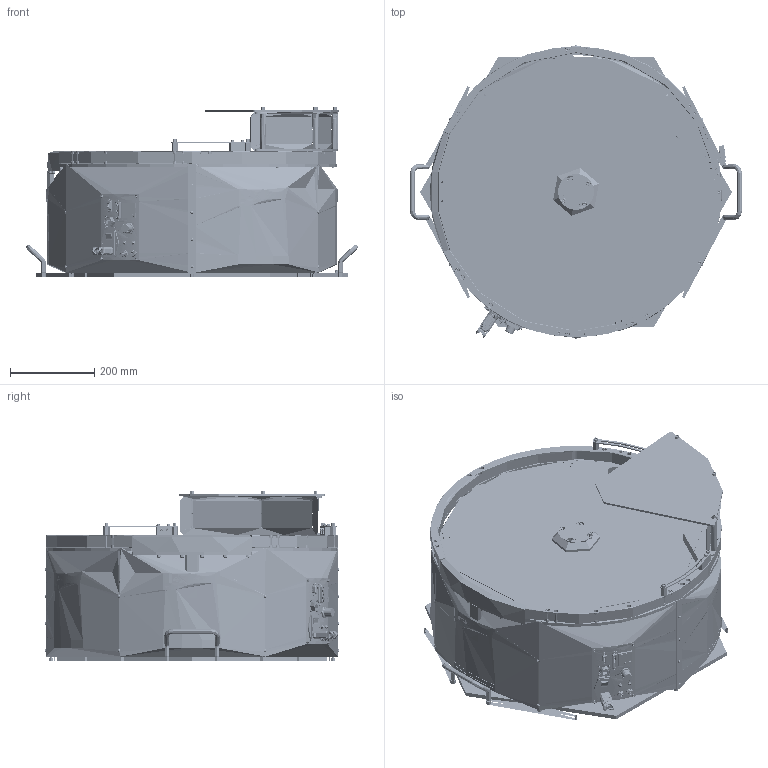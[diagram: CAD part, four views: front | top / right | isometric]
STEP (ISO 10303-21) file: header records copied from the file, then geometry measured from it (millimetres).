
FILE_DESCRIPTION (( 'STEP AP214' ), '1' );
FILE_NAME ('GM000216_FB650CC V2.2 Quick Emptying.STEP', '2023-09-19T07:21:08', ( '' ), ( '' ), 'SwSTEP 2.0', 'SolidWorks 2022', '' );
FILE_SCHEMA (( 'AUTOMOTIVE_DESIGN' ));
Length unit declared in the file: millimetre
Products named in the file (87): CE000418; CM000048; CE000316; PD001119; CM000024; CM000166; PD000709; CM000212; CM000015_002; CE000461; Copia di Led RDY_FLT^CE000326; PD001102; CM000027; PD005830; CM000026; CM000008_005; CM000031; CM000941; PD001360_FB650; CE000326; CE000013; CE000327; CM000170; PD001657; GM000216_FB650CC V2.2 Quick Emptying; PD006114; CE000078; PD001096; PD001356; PD001440; CM001243; PD001425; PD005831; PD006077; CM000039; CM000086; PD006076; CM000008_004; CE000005; PD006074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
Assembly tree (209 placements, depth 3):
  CM000941
  GM000216_FB650CC V2.2 Quick Emptying
    CM000032  x4
    CM000048  x16
    CM000031  x9
    CM000050  x3
    CM000170  x6
    CM000166  x8
    CM000642  x4
    CM000035  x4
    CM000027  x4
    CM000086  x5
    CM000051  x4
    CM000025  x4
    CM000043  x2
    CM000026  x10
    CM000024  x10
    CM000006  x4
    CM000091
    CM000037  x3
    CM000021  x3
    CM000039  x3
    CM001243  x2
    CM000047  x10
    CM000015  x2
      CM000015_001
      CM000015_002
    CE000327
      Copia di CE000327^CE000327
      Copia di 39-01-2025^CE000327
    CE000326
      Copia di Led RDY_FLT^CE000326
      Copia di 39-01-2045^CE000326
    CE000461
      Copia di CE000325^CE000461
    CE000463
      Copia di connector_a-ds_25_pp-f^CE000302mod
    PD001096
    CM000001  x2
    PD006078
    PD001440  x6
    PD006077
    PD006073  x2
    PD001657
    PD000709
    PD000032
    CE000078
    PD001102
    PD001103
    PD001061
    PD000043  x4
    PD001121  x2
    PD001119  x2
    PD001425
    PD001426
    PD001360_FB650
    CE000007
    CE000013  x2
    CE000005
    CM000008
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Bounding box: 787.87 x 698.4 x 402.5 mm (x, y, z)
Topology: 208 solids, 286 shells, 14552 faces, 37309 edges, 23676 vertices
Faces by surface type: plane 6472, cylinder 3864, bspline 1844, cone 1695, torus 614, sphere 63
Full cylindrical faces by diameter (mm): 1.5 x2, 2 x4, 5 x2, 6.6 x1, 7 x1, 691.98 x6, 692 x3
Entity records: 581968 total; most frequent: CARTESIAN_POINT 260249, ORIENTED_EDGE 60514, DIRECTION 48282, EDGE_CURVE 30402, VERTEX_POINT 19836, AXIS2_PLACEMENT_3D 17519, LINE 13244, VECTOR 13244
